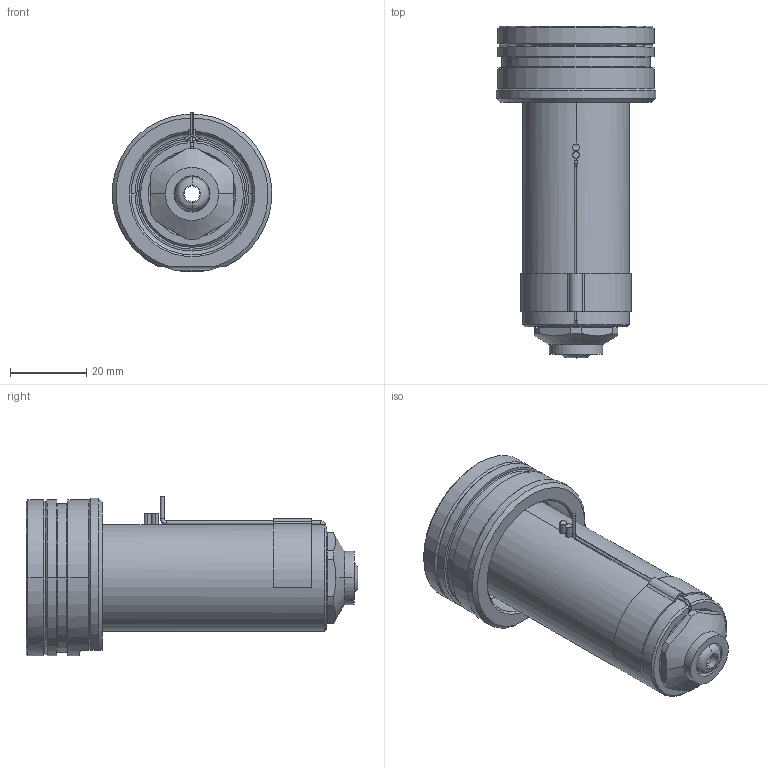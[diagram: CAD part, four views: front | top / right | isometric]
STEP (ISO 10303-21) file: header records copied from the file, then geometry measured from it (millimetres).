
FILE_DESCRIPTION((''),'2;1');
FILE_NAME('EO10_VG-BL_WR_070_SW','2024-02-19T13:10:45',('sundharh'),(''),'CREO PARAMETRIC BY PTC INC, 2023154','CREO PARAMETRIC BY PTC INC, 2023154','');
FILE_SCHEMA(('CONFIG_CONTROL_DESIGN'));
Length unit declared in the file: millimetre
Products named in the file (1): EO10_VG-BL_WR_070_SW
Bounding box: 41.85 x 87.2 x 42.02 mm (x, y, z)
Volume: 55690.2 mm3; surface area: 17148.1 mm2
Topology: 1 solids, 1 shells, 188 faces, 469 edges, 286 vertices
Faces by surface type: cylinder 71, plane 46, cone 35, torus 23, bspline 11, sphere 2
Entity records: 6453 total; most frequent: CARTESIAN_POINT 1888, DIRECTION 1005, ORIENTED_EDGE 934, EDGE_CURVE 467, AXIS2_PLACEMENT_3D 419, VERTEX_POINT 286, CIRCLE 242, EDGE_LOOP 203
